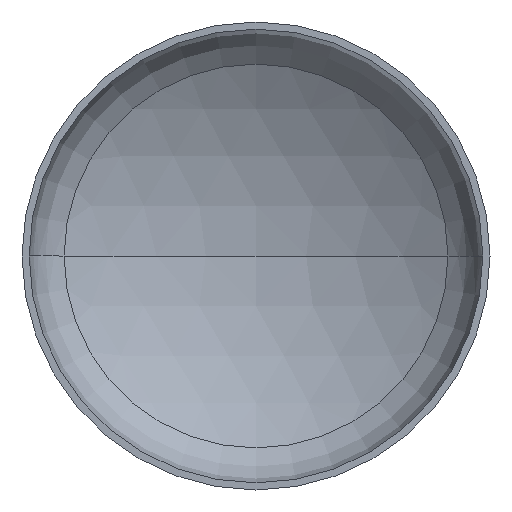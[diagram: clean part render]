
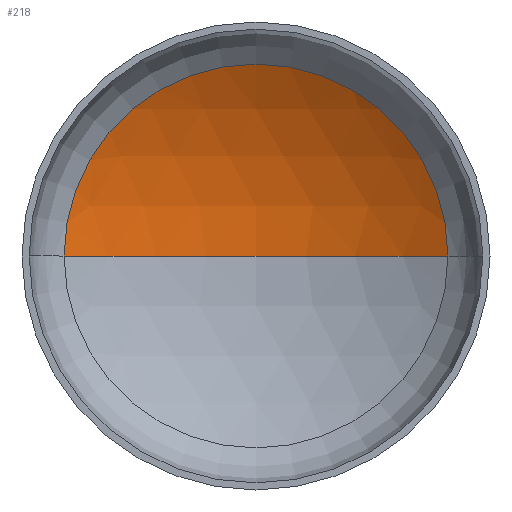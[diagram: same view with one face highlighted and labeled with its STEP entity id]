
A CAD part, front view. The second image highlights one B-rep face of the part: STEP entity #218.
In plain terms, the highlighted spherical face has radius 2560 mm.
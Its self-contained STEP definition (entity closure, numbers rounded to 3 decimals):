
#2 = CARTESIAN_POINT ( 'NONE',  ( 0., -1627.408, 0. ) ) ;
#19 = AXIS2_PLACEMENT_3D ( 'NONE', #233, #174, #172 ) ;
#26 = EDGE_LOOP ( 'NONE', ( #42, #30, #147 ) ) ;
#28 = CIRCLE ( 'NONE', #36, 2560. ) ;
#30 = ORIENTED_EDGE ( 'NONE', *, *, #80, .T. ) ;
#33 = VERTEX_POINT ( 'NONE', #244 ) ;
#34 = AXIS2_PLACEMENT_3D ( 'NONE', #2, #245, #346 ) ;
#36 = AXIS2_PLACEMENT_3D ( 'NONE', #194, #196, #197 ) ;
#37 = AXIS2_PLACEMENT_3D ( 'NONE', #219, #221, #212 ) ;
#42 = ORIENTED_EDGE ( 'NONE', *, *, #100, .F. ) ;
#79 = EDGE_CURVE ( 'NONE', #33, #97, #366, .T. ) ;
#80 = EDGE_CURVE ( 'NONE', #143, #33, #28, .T. ) ;
#97 = VERTEX_POINT ( 'NONE', #371 ) ;
#100 = EDGE_CURVE ( 'NONE', #143, #97, #168, .T. ) ;
#138 = FACE_OUTER_BOUND ( 'NONE', #26, .T. ) ;
#143 = VERTEX_POINT ( 'NONE', #217 ) ;
#147 = ORIENTED_EDGE ( 'NONE', *, *, #79, .T. ) ;
#168 = CIRCLE ( 'NONE', #34, 2560. ) ;
#172 = DIRECTION ( 'NONE',  ( -1., 0., 0. ) ) ;
#174 = DIRECTION ( 'NONE',  ( 0., 0., -1. ) ) ;
#194 = CARTESIAN_POINT ( 'NONE',  ( 0., -1627.408, 0. ) ) ;
#196 = DIRECTION ( 'NONE',  ( 0., 0., -1. ) ) ;
#197 = DIRECTION ( 'NONE',  ( -1., 0., 0. ) ) ;
#212 = DIRECTION ( 'NONE',  ( 1., 0., 0. ) ) ;
#217 = CARTESIAN_POINT ( 'NONE',  ( 0., 932.592, 0. ) ) ;
#218 = ADVANCED_FACE ( 'NONE', ( #138 ), #352, .F. ) ;
#219 = CARTESIAN_POINT ( 'NONE',  ( 0., 570.739, 0. ) ) ;
#221 = DIRECTION ( 'NONE',  ( 0., -1., 0. ) ) ;
#233 = CARTESIAN_POINT ( 'NONE',  ( 0., -1627.408, 0. ) ) ;
#244 = CARTESIAN_POINT ( 'NONE',  ( 1312.155, 570.739, 0. ) ) ;
#245 = DIRECTION ( 'NONE',  ( 0., 0., 1. ) ) ;
#346 = DIRECTION ( 'NONE',  ( 1., 0., 0. ) ) ;
#352 = SPHERICAL_SURFACE ( 'NONE', #19, 2560. ) ;
#366 = CIRCLE ( 'NONE', #37, 1312.155 ) ;
#371 = CARTESIAN_POINT ( 'NONE',  ( -1312.155, 570.739, 0. ) ) ;
